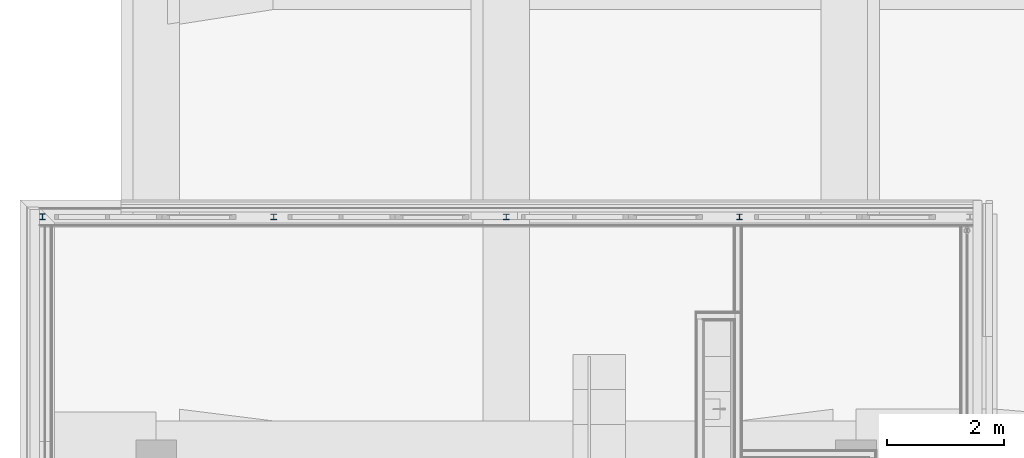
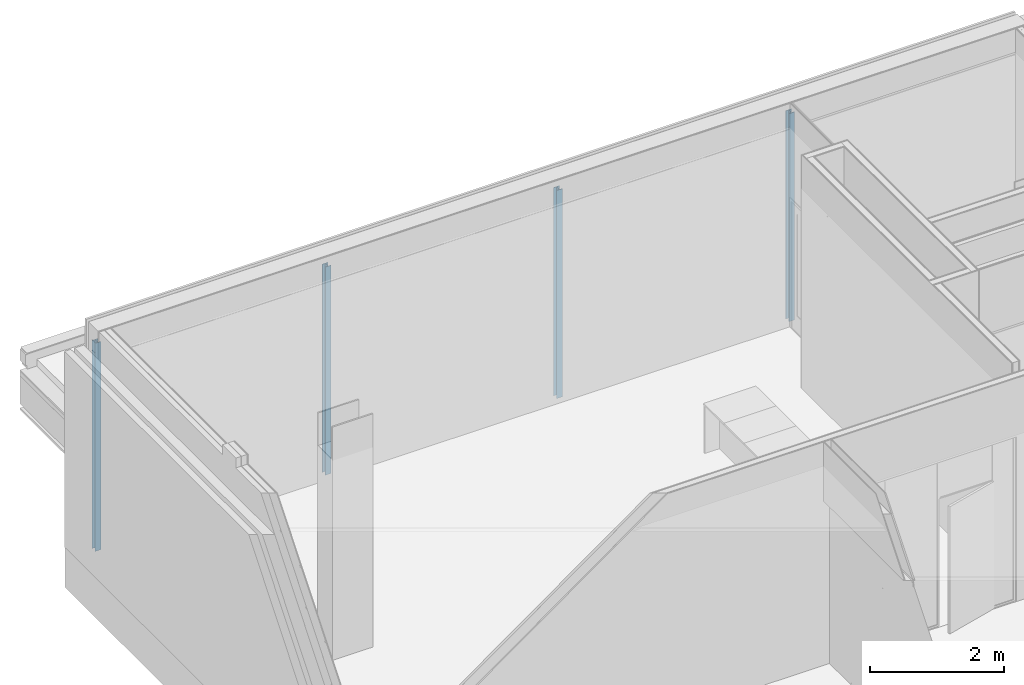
# One storey, part 12 of 94: 4 columns.
"""IFC2X3 building model written with IfcOpenShell, lengths in millimetres."""

from ifc_helpers import new_model, entity, si_unit, converted_unit, derived_unit, money_unit, direction, frame, origin_with_axes, place, context, subcontext, project, spatial, faceted_brep, material, type_object, element, save


model = new_model("IFC2X3")

# Units and contexts
model_context = context("Model", 3, precision=0.01, world=origin_with_axes(), true_north=direction((0.0, 1.0)))
body_context = subcontext(model_context, "Body", "Model", "MODEL_VIEW")
ifc_project = project(units=[si_unit("LENGTHUNIT", "METRE", prefix="MILLI"), si_unit("AREAUNIT", "SQUARE_METRE"), si_unit("VOLUMEUNIT", "CUBIC_METRE"), converted_unit("PLANEANGLEUNIT", "DEGREE", entity("IfcPlaneAngleMeasure", 0.0174532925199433), si_unit("PLANEANGLEUNIT", "RADIAN"), dimensions=[0, 0, 0, 0, 0, 0, 0]), money_unit("EUR"), converted_unit("TIMEUNIT", "Year", entity("IfcTimeMeasure", 31557600.0), si_unit("TIMEUNIT", "SECOND"), dimensions=[0, 0, 1, 0, 0, 0, 0]), si_unit("MASSUNIT", "GRAM", prefix="KILO"), si_unit("THERMODYNAMICTEMPERATUREUNIT", "DEGREE_CELSIUS"), si_unit("LUMINOUSINTENSITYUNIT", "LUMEN"), si_unit("ENERGYUNIT", "JOULE", prefix="MEGA"), derived_unit("THERMALCONDUCTANCEUNIT", [(si_unit("POWERUNIT", "WATT"), 1), (si_unit("LENGTHUNIT", "METRE"), -1), (si_unit("THERMODYNAMICTEMPERATUREUNIT", "KELVIN"), -1)]), derived_unit("SPECIFICHEATCAPACITYUNIT", [(si_unit("ENERGYUNIT", "JOULE"), 1), (si_unit("MASSUNIT", "GRAM", prefix="KILO"), -1), (si_unit("THERMODYNAMICTEMPERATUREUNIT", "KELVIN"), -1)]), derived_unit("MASSDENSITYUNIT", [(si_unit("MASSUNIT", "GRAM", prefix="KILO"), 1), (si_unit("VOLUMEUNIT", "CUBIC_METRE"), -1)])], contexts=[model_context])

# Site, building, storey
site_placement = place(None, origin_with_axes())
site = spatial("IfcSite", under=ifc_project, at=site_placement, Name="<site naam>", CompositionType="ELEMENT")
building_placement = place(site_placement, origin_with_axes())
building = spatial("IfcBuilding", under=site, at=building_placement, Name="<Naam gebouw>", CompositionType="ELEMENT")
storey_placement = place(building_placement, frame((0.0, 0.0, 4250.0), z_axis=(0.0, 0.0, 1.0), x_axis=(1.0, 0.0, 0.0)))
storey = spatial("IfcBuildingStorey", under=building, at=storey_placement, Name="01 1e verdieping", CompositionType="ELEMENT", Elevation=4250.0)

# Columns
ifc_material = material(Name="staal C")
column_type = type_object("IfcColumnType", Name="Profiel H algemeen 100 x 96", PredefinedType="COLUMN")
column_1_placement = place(storey_placement, frame((-11949.99999985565, 20048.99999803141, 0.0), z_axis=(0.0, 0.0, 1.0), x_axis=(1.0, 0.0, 0.0)))
element("IfcColumn", 1, at=column_1_placement, inside=storey, type_object=column_type, material=ifc_material, Name="28_Kolom_Profiel", ObjectType="COLUMN", context=body_context, shape_type="Brep", body=[
    faceted_brep([(-50.00000009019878, -48.00000045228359, 3789.999753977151), (-50.00000009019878, -48.00000045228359, 0.0), (50.00000009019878, -48.00000045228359, 0.0), (50.00000009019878, -48.00000045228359, 3789.999753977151), (-50.00000014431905, -39.99999797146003, 3789.999753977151), (-50.00000014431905, -39.99999797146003, 0.0), (-2.499999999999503, -39.99999797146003, 0.0), (-2.499999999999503, 39.99999797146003, 0.0), (-50.00000014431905, 39.99999797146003, 0.0), (-50.00000009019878, 48.00000045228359, 0.0), (50.00000009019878, 48.00000045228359, 0.0), (50.00000014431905, 39.99999797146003, 0.0), (2.500000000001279, 39.99999797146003, 0.0), (2.499999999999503, -39.99999797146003, 0.0), (50.00000014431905, -39.99999797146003, 0.0), (50.00000014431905, -39.99999797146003, 3789.999753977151), (2.499999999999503, -39.99999797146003, 3789.999753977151), (2.500000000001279, 39.99999797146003, 3789.999753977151), (50.00000014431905, 39.99999797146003, 3789.999753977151), (50.00000009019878, 48.00000045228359, 3789.999753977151), (-50.00000009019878, 48.00000045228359, 3789.999753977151), (-50.00000014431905, 39.99999797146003, 3789.999753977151), (-2.499999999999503, 39.99999797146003, 3789.999753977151), (-2.499999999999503, -39.99999797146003, 3789.999753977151)], [[[0, 1, 2, 3]], [[4, 5, 1, 0]], [[2, 1, 5, 6, 7, 8, 9, 10, 11, 12, 13, 14]], [[3, 2, 14, 15]], [[4, 0, 3, 15, 16, 17, 18, 19, 20, 21, 22, 23]], [[23, 6, 5, 4]], [[22, 7, 6, 23]], [[21, 8, 7, 22]], [[20, 9, 8, 21]], [[19, 10, 9, 20]], [[18, 11, 10, 19]], [[17, 12, 11, 18]], [[16, 13, 12, 17]], [[15, 14, 13, 16]]]),
])
column_2_placement = place(storey_placement, frame((-7983.975925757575, 20047.99465288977, 0.0), z_axis=(0.0, 0.0, 1.0), x_axis=(1.0, 0.0, 0.0)))
element("IfcColumn", 2, at=column_2_placement, inside=storey, type_object=column_type, material=ifc_material, Name="28_Kolom_Profiel", ObjectType="COLUMN", context=body_context, shape_type="Brep", body=[
    faceted_brep([(-50.00000009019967, -48.00000045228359, 3789.999753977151), (-50.00000009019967, -48.00000045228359, 0.0), (50.00000009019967, -48.00000045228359, 0.0), (50.00000009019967, -48.00000045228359, 3789.999753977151), (-50.00000014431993, -39.99999797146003, 3789.999753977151), (-50.00000014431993, -39.99999797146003, 0.0), (-2.499999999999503, -39.99999797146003, 0.0), (-2.499999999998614, 39.99999797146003, 0.0), (-50.00000014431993, 39.99999797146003, 0.0), (-50.00000009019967, 48.00000045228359, 0.0), (50.00000009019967, 48.00000045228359, 0.0), (50.00000014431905, 39.99999797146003, 0.0), (2.500000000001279, 39.99999797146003, 0.0), (2.500000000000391, -39.99999797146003, 0.0), (50.00000014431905, -39.99999797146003, 0.0), (50.00000014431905, -39.99999797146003, 3789.999753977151), (2.500000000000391, -39.99999797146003, 3789.999753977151), (2.500000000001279, 39.99999797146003, 3789.999753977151), (50.00000014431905, 39.99999797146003, 3789.999753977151), (50.00000009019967, 48.00000045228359, 3789.999753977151), (-50.00000009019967, 48.00000045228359, 3789.999753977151), (-50.00000014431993, 39.99999797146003, 3789.999753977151), (-2.499999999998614, 39.99999797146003, 3789.999753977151), (-2.499999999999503, -39.99999797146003, 3789.999753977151)], [[[0, 1, 2, 3]], [[4, 5, 1, 0]], [[2, 1, 5, 6, 7, 8, 9, 10, 11, 12, 13, 14]], [[3, 2, 14, 15]], [[4, 0, 3, 15, 16, 17, 18, 19, 20, 21, 22, 23]], [[23, 6, 5, 4]], [[22, 7, 6, 23]], [[21, 8, 7, 22]], [[20, 9, 8, 21]], [[19, 10, 9, 20]], [[18, 11, 10, 19]], [[17, 12, 11, 18]], [[16, 13, 12, 17]], [[15, 14, 13, 16]]]),
])
column_3_placement = place(storey_placement, frame((-3999.999999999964, 20048.0000004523, 0.0), z_axis=(0.0, 0.0, 1.0), x_axis=(1.0, 0.0, 0.0)))
element("IfcColumn", 3, at=column_3_placement, inside=storey, type_object=column_type, material=ifc_material, Name="28_Kolom_Profiel", ObjectType="COLUMN", context=body_context, shape_type="Brep", body=[
    faceted_brep([(-50.00000009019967, -48.00000045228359, 3789.999753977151), (-50.00000009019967, -48.00000045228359, 0.0), (50.00000009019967, -48.00000045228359, 0.0), (50.00000009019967, -48.00000045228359, 3789.999753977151), (-50.00000014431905, -39.99999797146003, 3789.999753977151), (-50.00000014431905, -39.99999797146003, 0.0), (-2.499999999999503, -39.99999797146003, 0.0), (-2.499999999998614, 39.99999797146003, 0.0), (-50.00000014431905, 39.99999797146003, 0.0), (-50.00000009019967, 48.00000045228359, 0.0), (50.00000009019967, 48.00000045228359, 0.0), (50.00000014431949, 39.99999797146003, 0.0), (2.500000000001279, 39.99999797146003, 0.0), (2.500000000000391, -39.99999797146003, 0.0), (50.00000014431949, -39.99999797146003, 0.0), (50.00000014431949, -39.99999797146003, 3789.999753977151), (2.500000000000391, -39.99999797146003, 3789.999753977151), (2.500000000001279, 39.99999797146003, 3789.999753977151), (50.00000014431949, 39.99999797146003, 3789.999753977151), (50.00000009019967, 48.00000045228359, 3789.999753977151), (-50.00000009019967, 48.00000045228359, 3789.999753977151), (-50.00000014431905, 39.99999797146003, 3789.999753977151), (-2.499999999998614, 39.99999797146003, 3789.999753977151), (-2.499999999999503, -39.99999797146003, 3789.999753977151)], [[[0, 1, 2, 3]], [[4, 5, 1, 0]], [[2, 1, 5, 6, 7, 8, 9, 10, 11, 12, 13, 14]], [[3, 2, 14, 15]], [[4, 0, 3, 15, 16, 17, 18, 19, 20, 21, 22, 23]], [[23, 6, 5, 4]], [[22, 7, 6, 23]], [[21, 8, 7, 22]], [[20, 9, 8, 21]], [[19, 10, 9, 20]], [[18, 11, 10, 19]], [[17, 12, 11, 18]], [[16, 13, 12, 17]], [[15, 14, 13, 16]]]),
])
column_4_placement = place(storey_placement, frame((0.0, 20048.0000004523, 0.0), z_axis=(0.0, 0.0, 1.0), x_axis=(1.0, 0.0, 0.0)))
element("IfcColumn", 4, at=column_4_placement, inside=storey, type_object=column_type, material=ifc_material, Name="28_Kolom_Profiel", ObjectType="COLUMN", context=body_context, shape_type="Brep", body=[
    faceted_brep([(-50.00000009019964, -48.00000045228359, 3789.999753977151), (-50.00000009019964, -48.00000045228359, 0.0), (50.00000009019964, -48.00000045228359, 0.0), (50.00000009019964, -48.00000045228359, 3789.999753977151), (-50.00000014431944, -39.99999797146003, 3789.999753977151), (-50.00000014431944, -39.99999797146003, 0.0), (-2.499999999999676, -39.99999797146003, 0.0), (-2.499999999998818, 39.99999797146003, 0.0), (-50.00000014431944, 39.99999797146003, 0.0), (-50.00000009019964, 48.00000045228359, 0.0), (50.00000009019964, 48.00000045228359, 0.0), (50.00000014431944, 39.99999797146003, 0.0), (2.500000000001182, 39.99999797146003, 0.0), (2.500000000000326, -39.99999797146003, 0.0), (50.00000014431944, -39.99999797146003, 0.0), (50.00000014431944, -39.99999797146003, 3789.999753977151), (2.500000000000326, -39.99999797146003, 3789.999753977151), (2.500000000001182, 39.99999797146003, 3789.999753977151), (50.00000014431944, 39.99999797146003, 3789.999753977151), (50.00000009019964, 48.00000045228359, 3789.999753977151), (-50.00000009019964, 48.00000045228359, 3789.999753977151), (-50.00000014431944, 39.99999797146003, 3789.999753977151), (-2.499999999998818, 39.99999797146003, 3789.999753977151), (-2.499999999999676, -39.99999797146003, 3789.999753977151)], [[[0, 1, 2, 3]], [[4, 5, 1, 0]], [[2, 1, 5, 6, 7, 8, 9, 10, 11, 12, 13, 14]], [[3, 2, 14, 15]], [[4, 0, 3, 15, 16, 17, 18, 19, 20, 21, 22, 23]], [[23, 6, 5, 4]], [[22, 7, 6, 23]], [[21, 8, 7, 22]], [[20, 9, 8, 21]], [[19, 10, 9, 20]], [[18, 11, 10, 19]], [[17, 12, 11, 18]], [[16, 13, 12, 17]], [[15, 14, 13, 16]]]),
])

save(model, "model.ifc")
